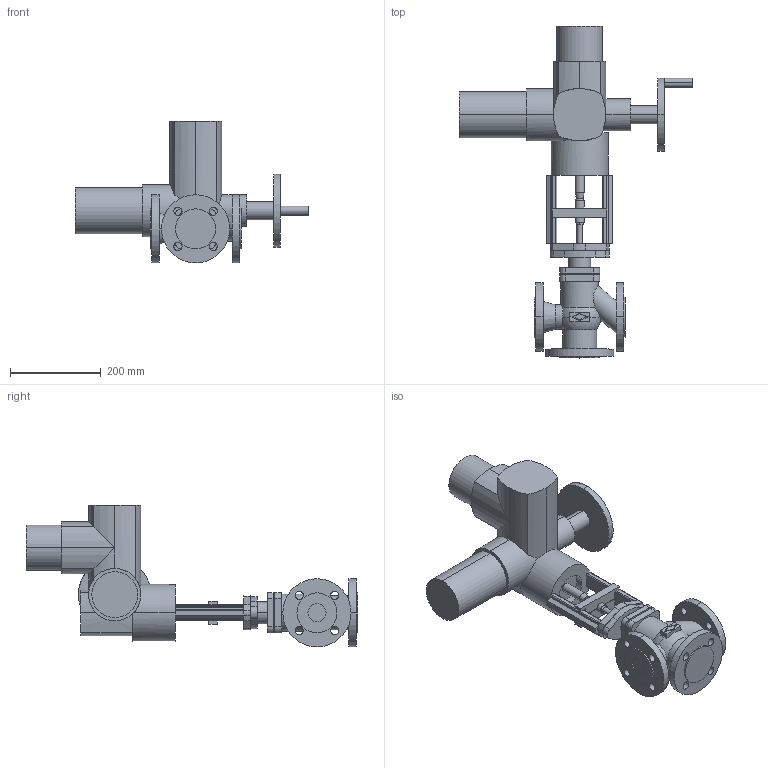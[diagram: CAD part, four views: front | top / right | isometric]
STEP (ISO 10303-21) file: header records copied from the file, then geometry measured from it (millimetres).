
FILE_DESCRIPTION(('OneSpaceDesigner STEP Export'),'2;1');
FILE_NAME('c000003149.stp','2007-01-24T 9:52:31',(''),(''),'OneSpace Designer STEP processor for AP214 (Solid Model)','OneSpace Designer 14.00B 27-May-2006 (C) CoCreate Software GmbH','');
FILE_SCHEMA(('AUTOMOTIVE_DESIGN { 1 0 10303 214 1 1 1 1 }'));
Length unit declared in the file: millimetre
Products named in the file (2): 1; 2
Bounding box: 514 x 729.5 x 312 mm (x, y, z)
Volume: 10800275.4 mm3; surface area: 670250.6 mm2
Topology: 2 solids, 2 shells, 283 faces, 727 edges, 465 vertices
Faces by surface type: cylinder 142, plane 131, cone 6, sphere 4
Entity records: 8363 total; most frequent: CARTESIAN_POINT 1883, ORIENTED_EDGE 1454, DIRECTION 1210, EDGE_CURVE 727, VERTEX_POINT 465, AXIS2_PLACEMENT_3D 409, VECTOR 392, LINE 392
